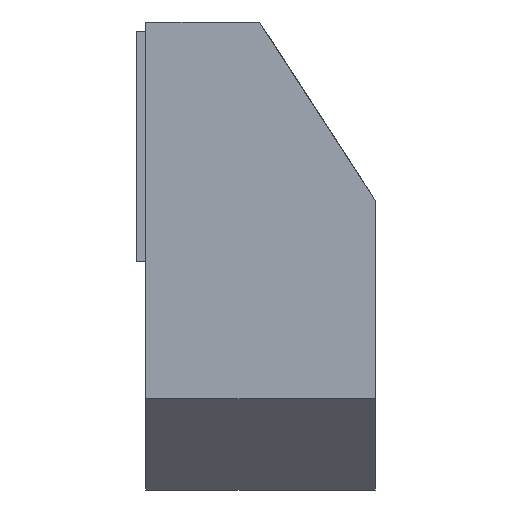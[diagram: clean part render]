
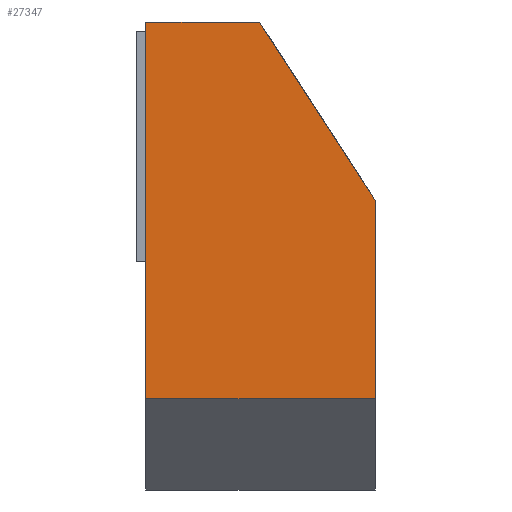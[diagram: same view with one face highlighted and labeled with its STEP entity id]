
A CAD part, left-side view. The second image highlights one B-rep face of the part: STEP entity #27347.
In plain terms, the highlighted planar face has unit normal (-1, 0, 0).
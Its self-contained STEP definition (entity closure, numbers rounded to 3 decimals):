
#863 = ORIENTED_EDGE ( 'NONE', *, *, #9348, .T. ) ;
#966 = ORIENTED_EDGE ( 'NONE', *, *, #28193, .F. ) ;
#2329 = VECTOR ( 'NONE', #29384, 1000. ) ;
#2898 = AXIS2_PLACEMENT_3D ( 'NONE', #27328, #6715, #20049 ) ;
#3187 = CARTESIAN_POINT ( 'NONE',  ( -38.5, 1.139, 48.493 ) ) ;
#3766 = ORIENTED_EDGE ( 'NONE', *, *, #40654, .T. ) ;
#4258 = DIRECTION ( 'NONE',  ( 0., 1., 0. ) ) ;
#4768 = DIRECTION ( 'NONE',  ( 0., -1., 0. ) ) ;
#5683 = CARTESIAN_POINT ( 'NONE',  ( -38.5, -11.611, 28.86 ) ) ;
#5746 = VERTEX_POINT ( 'NONE', #6107 ) ;
#5838 = EDGE_LOOP ( 'NONE', ( #966, #17334, #21174, #3766, #863 ) ) ;
#6107 = CARTESIAN_POINT ( 'NONE',  ( -38.5, 13.639, 7.04 ) ) ;
#6715 = DIRECTION ( 'NONE',  ( 1., 0., 0. ) ) ;
#6926 = VECTOR ( 'NONE', #4258, 1000. ) ;
#8361 = CARTESIAN_POINT ( 'NONE',  ( -38.5, -11.611, 48.493 ) ) ;
#9348 = EDGE_CURVE ( 'NONE', #31910, #13987, #27458, .T. ) ;
#11594 = DIRECTION ( 'NONE',  ( 0., 0., 1. ) ) ;
#11666 = CARTESIAN_POINT ( 'NONE',  ( -38.5, -11.611, 7.04 ) ) ;
#13987 = VERTEX_POINT ( 'NONE', #40691 ) ;
#15462 = VECTOR ( 'NONE', #11594, 1000. ) ;
#16051 = VECTOR ( 'NONE', #22215, 1000. ) ;
#17334 = ORIENTED_EDGE ( 'NONE', *, *, #27386, .T. ) ;
#19105 = LINE ( 'NONE', #3187, #2329 ) ;
#20049 = DIRECTION ( 'NONE',  ( 0., 0., -1. ) ) ;
#20884 = CARTESIAN_POINT ( 'NONE',  ( -38.5, 14.639, 7.04 ) ) ;
#21033 = VERTEX_POINT ( 'NONE', #11666 ) ;
#21174 = ORIENTED_EDGE ( 'NONE', *, *, #29259, .T. ) ;
#22215 = DIRECTION ( 'NONE',  ( 0., 0., 1. ) ) ;
#23047 = CARTESIAN_POINT ( 'NONE',  ( -38.5, 13.639, 6.383 ) ) ;
#26694 = PLANE ( 'NONE',  #2898 ) ;
#27027 = CARTESIAN_POINT ( 'NONE',  ( -38.5, 14.639, 48.493 ) ) ;
#27328 = CARTESIAN_POINT ( 'NONE',  ( -38.5, -0.702, 6.383 ) ) ;
#27347 = ADVANCED_FACE ( 'NONE', ( #29682 ), #26694, .F. ) ;
#27386 = EDGE_CURVE ( 'NONE', #5746, #21033, #37459, .T. ) ;
#27458 = LINE ( 'NONE', #27027, #6926 ) ;
#28193 = EDGE_CURVE ( 'NONE', #5746, #13987, #39445, .T. ) ;
#29259 = EDGE_CURVE ( 'NONE', #21033, #35642, #38052, .T. ) ;
#29384 = DIRECTION ( 'NONE',  ( 0., 0.545, 0.839 ) ) ;
#29682 = FACE_OUTER_BOUND ( 'NONE', #5838, .T. ) ;
#31681 = VECTOR ( 'NONE', #4768, 1000. ) ;
#31910 = VERTEX_POINT ( 'NONE', #39455 ) ;
#35642 = VERTEX_POINT ( 'NONE', #5683 ) ;
#37459 = LINE ( 'NONE', #20884, #31681 ) ;
#38052 = LINE ( 'NONE', #8361, #15462 ) ;
#39445 = LINE ( 'NONE', #23047, #16051 ) ;
#39455 = CARTESIAN_POINT ( 'NONE',  ( -38.5, 1.139, 48.493 ) ) ;
#40654 = EDGE_CURVE ( 'NONE', #35642, #31910, #19105, .T. ) ;
#40691 = CARTESIAN_POINT ( 'NONE',  ( -38.5, 13.639, 48.493 ) ) ;
